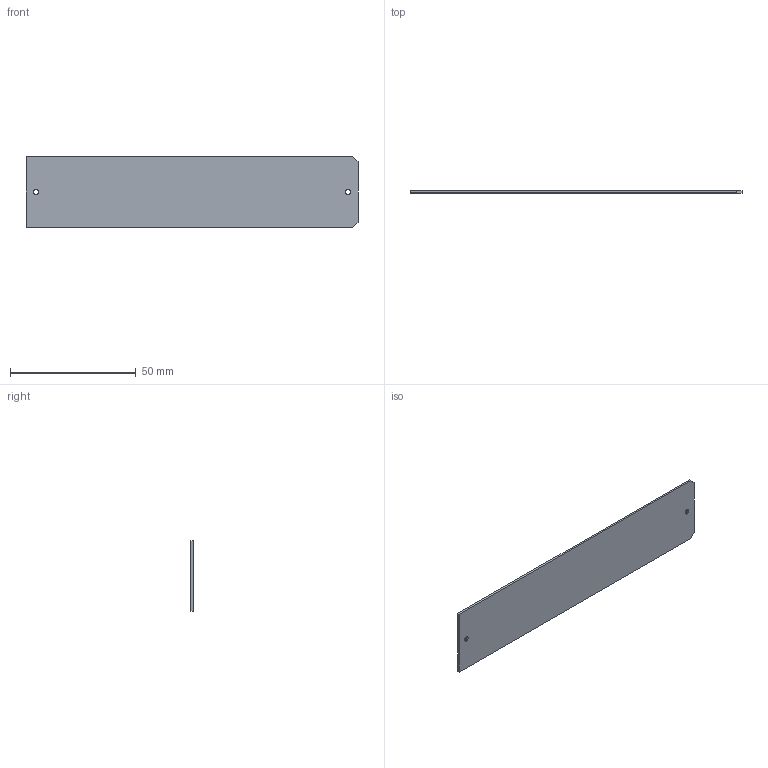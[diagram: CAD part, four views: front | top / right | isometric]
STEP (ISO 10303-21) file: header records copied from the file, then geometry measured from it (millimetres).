
FILE_DESCRIPTION (( 'STEP AP214' ), '1' );
FILE_NAME ('LBRX-00-120-6-POLARIZER-H.STEP', '2021-11-05T05:53:28', ( '' ), ( '' ), 'SwSTEP 2.0', 'SolidWorks 2021', '' );
FILE_SCHEMA (( 'AUTOMOTIVE_DESIGN' ));
Length unit declared in the file: millimetre
Products named in the file (1): LBRX-00-120-6-POLARIZER-H
Bounding box: 132 x 0.8 x 28.2 mm (x, y, z)
Volume: 2969.7 mm3; surface area: 7688.7 mm2
Topology: 1 solids, 1 shells, 12 faces, 30 edges, 20 vertices
Faces by surface type: plane 8, cylinder 4
Entity records: 404 total; most frequent: DIRECTION 64, CARTESIAN_POINT 63, ORIENTED_EDGE 60, EDGE_CURVE 30, VECTOR 22, LINE 22, AXIS2_PLACEMENT_3D 21, VERTEX_POINT 20
